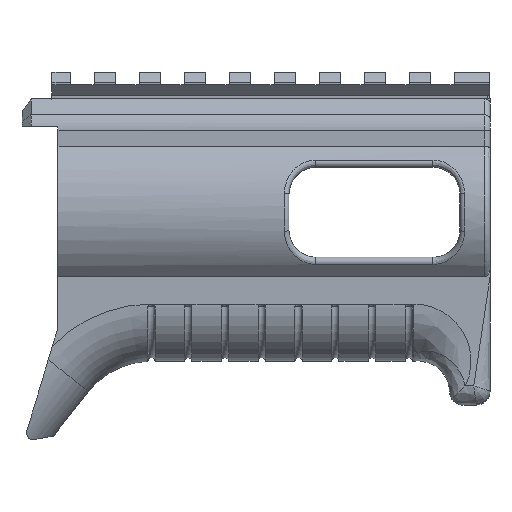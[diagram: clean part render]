
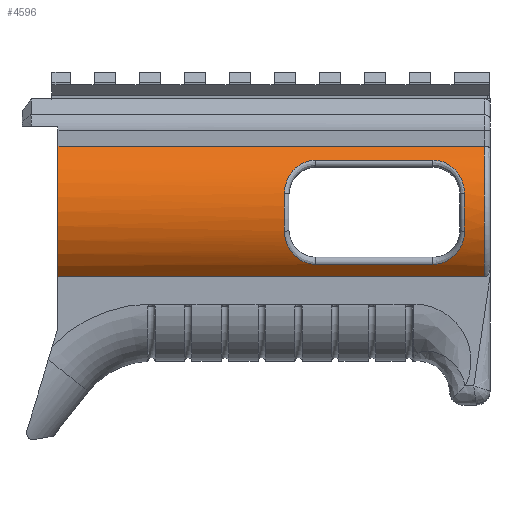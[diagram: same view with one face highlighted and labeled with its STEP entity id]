
A CAD part, left-side view. The second image highlights one B-rep face of the part: STEP entity #4596.
In plain terms, the highlighted cylindrical face has radius 20 mm (diameter 40 mm), a partial arc.
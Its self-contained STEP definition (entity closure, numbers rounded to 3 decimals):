
#114=CYLINDRICAL_SURFACE('',#4951,20.);
#159=B_SPLINE_CURVE_WITH_KNOTS('',3,(#7144,#7145,#7146,#7147,#7148,#7149,
#7150),.UNSPECIFIED.,.F.,.F.,(4,1,1,1,4),(0.,0.327,0.654,
0.981,1.145),.UNSPECIFIED.);
#161=B_SPLINE_CURVE_WITH_KNOTS('',3,(#7211,#7212,#7213,#7214,#7215,#7216,
#7217),.UNSPECIFIED.,.F.,.F.,(4,1,1,1,4),(0.,0.327,
0.491,0.818,1.145),.UNSPECIFIED.);
#163=B_SPLINE_CURVE_WITH_KNOTS('',3,(#7282,#7283,#7284,#7285,#7286,#7287,
#7288,#7289),.UNSPECIFIED.,.F.,.F.,(4,1,1,1,1,4),(0.,0.246,0.493,
0.821,0.985,1.149),.UNSPECIFIED.);
#165=B_SPLINE_CURVE_WITH_KNOTS('',3,(#7349,#7350,#7351,#7352,#7353,#7354,
#7355),.UNSPECIFIED.,.F.,.F.,(4,1,1,1,4),(0.,0.164,
0.493,0.821,1.149),.UNSPECIFIED.);
#288=FACE_BOUND('',#758,.T.);
#475=FACE_OUTER_BOUND('',#757,.T.);
#757=EDGE_LOOP('',(#3842,#3843,#3844,#3845));
#758=EDGE_LOOP('',(#3846,#3847,#3848,#3849,#3850,#3851,#3852,#3853));
#855=CIRCLE('',#4717,20.);
#880=CIRCLE('',#4853,20.);
#886=CIRCLE('',#4861,20.);
#927=CIRCLE('',#4952,20.);
#1264=LINE('',#7164,#1675);
#1266=LINE('',#7302,#1677);
#1340=LINE('',#8802,#1751);
#1341=LINE('',#8806,#1752);
#1675=VECTOR('',#5661,10.);
#1677=VECTOR('',#5679,10.);
#1751=VECTOR('',#5939,10.);
#1752=VECTOR('',#5944,10.);
#1825=VERTEX_POINT('',#6305);
#1826=VERTEX_POINT('',#6307);
#2020=VERTEX_POINT('',#7140);
#2022=VERTEX_POINT('',#7143);
#2024=VERTEX_POINT('',#7161);
#2026=VERTEX_POINT('',#7208);
#2028=VERTEX_POINT('',#7226);
#2030=VERTEX_POINT('',#7279);
#2032=VERTEX_POINT('',#7299);
#2034=VERTEX_POINT('',#7346);
#2124=VERTEX_POINT('',#8800);
#2125=VERTEX_POINT('',#8804);
#2239=EDGE_CURVE('',#1826,#1825,#855,.T.);
#2542=EDGE_CURVE('',#2022,#2020,#159,.T.);
#2546=EDGE_CURVE('',#2020,#2024,#1264,.T.);
#2549=EDGE_CURVE('',#2024,#2026,#161,.T.);
#2552=EDGE_CURVE('',#2026,#2028,#880,.T.);
#2555=EDGE_CURVE('',#2028,#2030,#163,.T.);
#2558=EDGE_CURVE('',#2030,#2032,#1266,.T.);
#2561=EDGE_CURVE('',#2032,#2034,#165,.T.);
#2564=EDGE_CURVE('',#2034,#2022,#886,.T.);
#2720=EDGE_CURVE('',#2124,#1826,#1340,.T.);
#2721=EDGE_CURVE('',#2124,#2125,#927,.T.);
#2722=EDGE_CURVE('',#1825,#2125,#1341,.T.);
#3842=ORIENTED_EDGE('',*,*,#2721,.F.);
#3843=ORIENTED_EDGE('',*,*,#2720,.T.);
#3844=ORIENTED_EDGE('',*,*,#2239,.T.);
#3845=ORIENTED_EDGE('',*,*,#2722,.T.);
#3846=ORIENTED_EDGE('',*,*,#2542,.T.);
#3847=ORIENTED_EDGE('',*,*,#2546,.T.);
#3848=ORIENTED_EDGE('',*,*,#2549,.T.);
#3849=ORIENTED_EDGE('',*,*,#2552,.T.);
#3850=ORIENTED_EDGE('',*,*,#2555,.T.);
#3851=ORIENTED_EDGE('',*,*,#2558,.T.);
#3852=ORIENTED_EDGE('',*,*,#2561,.T.);
#3853=ORIENTED_EDGE('',*,*,#2564,.T.);
#4596=ADVANCED_FACE('',(#475,#288),#114,.T.);
#4717=AXIS2_PLACEMENT_3D('',#6308,#5137,#5138);
#4853=AXIS2_PLACEMENT_3D('',#7229,#5669,#5670);
#4861=AXIS2_PLACEMENT_3D('',#7365,#5687,#5688);
#4951=AXIS2_PLACEMENT_3D('',#8803,#5940,#5941);
#4952=AXIS2_PLACEMENT_3D('',#8805,#5942,#5943);
#5137=DIRECTION('center_axis',(0.,-1.,0.));
#5138=DIRECTION('ref_axis',(0.,0.,
1.));
#5661=DIRECTION('',(0.,-1.,0.));
#5669=DIRECTION('center_axis',(0.,-1.,0.));
#5670=DIRECTION('ref_axis',(-1.,0.,-0.007));
#5679=DIRECTION('',(0.,1.,0.));
#5687=DIRECTION('center_axis',(0.,1.,0.));
#5688=DIRECTION('ref_axis',(-1.,0.,-0.007));
#5939=DIRECTION('',(0.,1.,0.));
#5940=DIRECTION('center_axis',(0.,-1.,0.));
#5941=DIRECTION('ref_axis',(0.,0.,
1.));
#5942=DIRECTION('center_axis',(0.,-1.,0.));
#5943=DIRECTION('ref_axis',(-1.,0.,0.));
#5944=DIRECTION('',(0.,-1.,0.));
#6305=CARTESIAN_POINT('',(-13.71,-131.348,-46.159));
#6307=CARTESIAN_POINT('',(-13.71,-131.348,-17.112));
#6308=CARTESIAN_POINT('Origin',(0.04,-131.348,-31.636));
#7140=CARTESIAN_POINT('',(-16.374,-188.68,-20.209));
#7143=CARTESIAN_POINT('',(-19.544,-181.68,-27.577));
#7144=CARTESIAN_POINT('Ctrl Pts',(-19.544,-181.68,-27.577));
#7145=CARTESIAN_POINT('Ctrl Pts',(-19.311,-181.68,-26.453));
#7146=CARTESIAN_POINT('Ctrl Pts',(-18.642,-182.179,-24.26));
#7147=CARTESIAN_POINT('Ctrl Pts',(-17.366,-184.104,-21.69));
#7148=CARTESIAN_POINT('Ctrl Pts',(-16.518,-186.495,-20.414));
#7149=CARTESIAN_POINT('Ctrl Pts',(-16.374,-188.135,-20.209));
#7150=CARTESIAN_POINT('Ctrl Pts',(-16.374,-188.68,-20.209));
#7161=CARTESIAN_POINT('',(-16.374,-214.68,-20.209));
#7164=CARTESIAN_POINT('',(-16.374,-227.348,-20.209));
#7208=CARTESIAN_POINT('',(-19.544,-221.68,-27.577));
#7211=CARTESIAN_POINT('Ctrl Pts',(-16.374,-214.68,-20.209));
#7212=CARTESIAN_POINT('Ctrl Pts',(-16.374,-215.771,-20.209));
#7213=CARTESIAN_POINT('Ctrl Pts',(-16.677,-217.388,-20.627));
#7214=CARTESIAN_POINT('Ctrl Pts',(-17.581,-219.572,-22.12));
#7215=CARTESIAN_POINT('Ctrl Pts',(-18.642,-221.183,-24.261));
#7216=CARTESIAN_POINT('Ctrl Pts',(-19.311,-221.68,-26.453));
#7217=CARTESIAN_POINT('Ctrl Pts',(-19.544,-221.68,-27.577));
#7226=CARTESIAN_POINT('',(-19.478,-221.68,-35.998));
#7229=CARTESIAN_POINT('Origin',(0.04,-221.68,-31.636));
#7279=CARTESIAN_POINT('',(-16.158,-214.68,-43.367));
#7282=CARTESIAN_POINT('Ctrl Pts',(-19.478,-221.68,-35.998));
#7283=CARTESIAN_POINT('Ctrl Pts',(-19.289,-221.68,-36.842));
#7284=CARTESIAN_POINT('Ctrl Pts',(-18.799,-221.402,-38.5));
#7285=CARTESIAN_POINT('Ctrl Pts',(-17.756,-220.15,-40.879));
#7286=CARTESIAN_POINT('Ctrl Pts',(-16.8,-218.338,-42.451));
#7287=CARTESIAN_POINT('Ctrl Pts',(-16.258,-216.321,-43.23));
#7288=CARTESIAN_POINT('Ctrl Pts',(-16.158,-215.228,-43.367));
#7289=CARTESIAN_POINT('Ctrl Pts',(-16.158,-214.68,-43.367));
#7299=CARTESIAN_POINT('',(-16.158,-188.68,-43.367));
#7302=CARTESIAN_POINT('',(-16.158,-227.348,-43.367));
#7346=CARTESIAN_POINT('',(-19.478,-181.68,-35.998));
#7349=CARTESIAN_POINT('Ctrl Pts',(-16.158,-188.68,-43.367));
#7350=CARTESIAN_POINT('Ctrl Pts',(-16.158,-188.133,-43.367));
#7351=CARTESIAN_POINT('Ctrl Pts',(-16.309,-186.487,-43.159));
#7352=CARTESIAN_POINT('Ctrl Pts',(-17.194,-184.098,-41.878));
#7353=CARTESIAN_POINT('Ctrl Pts',(-18.521,-182.179,-39.313));
#7354=CARTESIAN_POINT('Ctrl Pts',(-19.227,-181.68,-37.123));
#7355=CARTESIAN_POINT('Ctrl Pts',(-19.478,-181.68,-35.998));
#7365=CARTESIAN_POINT('Origin',(0.04,-181.68,-31.636));
#8800=CARTESIAN_POINT('',(-13.71,-226.078,-17.112));
#8802=CARTESIAN_POINT('',(-13.71,-227.348,-17.112));
#8803=CARTESIAN_POINT('Origin',(0.04,-227.348,-31.636));
#8804=CARTESIAN_POINT('',(-13.71,-226.078,-46.159));
#8805=CARTESIAN_POINT('Origin',(0.04,-226.078,-31.636));
#8806=CARTESIAN_POINT('',(-13.71,-227.348,-46.159));
